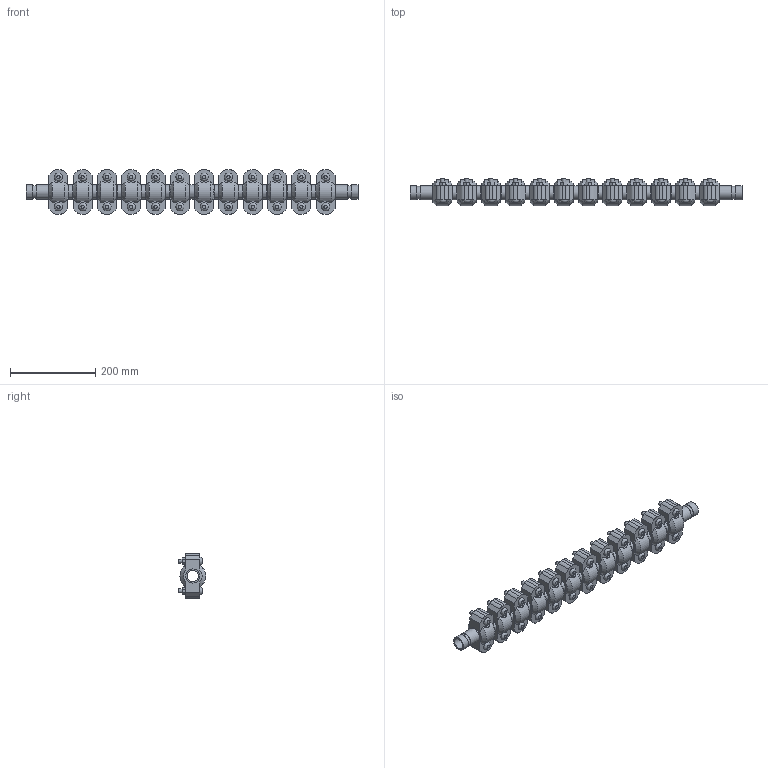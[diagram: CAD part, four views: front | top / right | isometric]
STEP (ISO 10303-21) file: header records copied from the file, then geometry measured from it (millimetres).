
FILE_DESCRIPTION(/* description */ ('VIC EXPANSION JOINT 12 COUPLINGS COMPRESSED STYLE 155 (OGS)','CAx-IF Rec.Pracs.---Representation and Presentation of Product Manufacturing Information (PMI)---4.0---2014-10-13'),/* implementation_level */ '2;1');
FILE_NAME(/* name */ 'C:\Users\kkamble\AppData\Roaming\Autodesk\ApplicationPlugins\Victaulic.Temp\A100\Victaulic_IPS_Expansion Joint_Compressed_12 Couplings_Style 155 (OGS)_1 (25).stp',/* time_stamp */ '2021-06-27T00:20:49+02:00',/* author */ ('kkamble'),/* organization */ ('Victaulic'),/* preprocessor_version */ 'ST-DEVELOPER v17.2',/* originating_system */ 'Autodesk Inventor 2019',/* authorisation */ '');
FILE_SCHEMA (('AP242_MANAGED_MODEL_BASED_3D_ENGINEERING_MIM_LF { 1 0 10303 442 1 1 4 }'));
Length unit declared in the file: inch
Products named in the file (4): 155-01.0; Nipple-01.0; Nipple-01.0_1; 077-01.0
Assembly tree (25 placements, depth 2):
  155-01.0
    Nipple-01.0  x2
    Nipple-01.0_1  x11
    077-01.0  x12
Bounding box: 781.05 x 64.33 x 104.65 mm (x, y, z)
Volume: 1958835.7 mm3; surface area: 505225.2 mm2
Topology: 25 solids, 49 shells, 840 faces, 2058 edges, 1440 vertices
Faces by surface type: plane 486, cylinder 282, cone 48, bspline 24
Full cylindrical faces by diameter (mm): 9.525 x48, 11.43 x24, 26.645 x13, 30.226 x26, 33.401 x51
Entity records: 3003 total; most frequent: CARTESIAN_POINT 571, DIRECTION 495, ORIENTED_EDGE 398, AXIS2_PLACEMENT_3D 200, EDGE_CURVE 199, VERTEX_POINT 142, EDGE_LOOP 105, LINE 95
